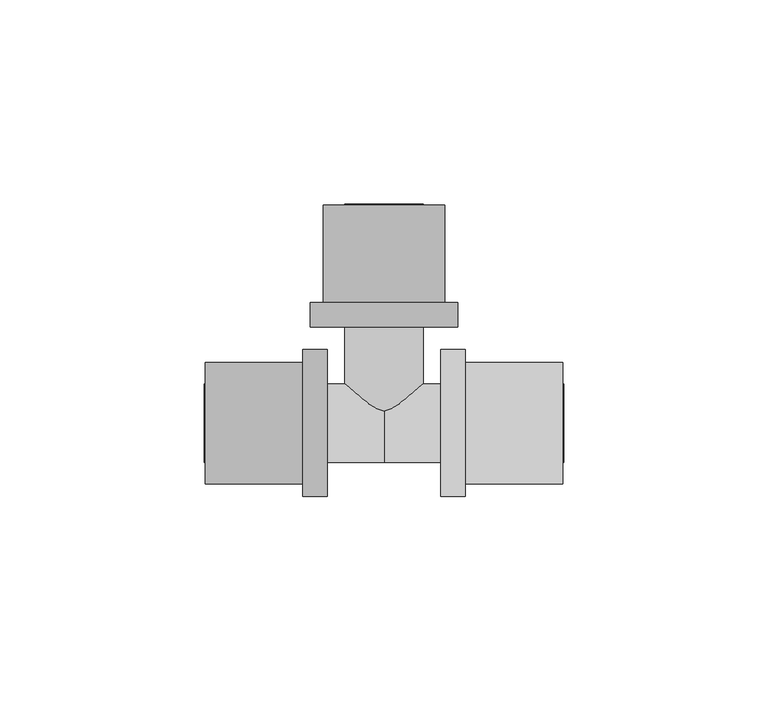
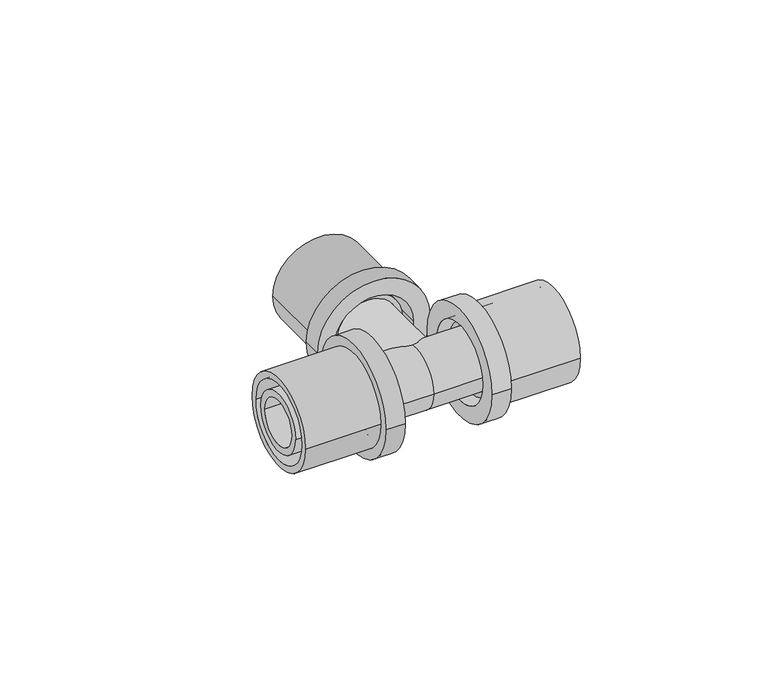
"""IFC4 building model written with IfcOpenShell, lengths in millimetres: pipe fitting geometry, FASTLOC_T-piece_EX+ : FSL T-Piece EX+ AT."""

from ifc_helpers import new_model, si_unit, frame, origin, place, context, project, spatial, polyline, circle_curve, source, transform, mapped, element, save
from ifc_brep_helpers import plane_surface, cylinder_surface, revolved_surface, advanced_brep


def pipe_fitting_e85672de(model_context):
    return source(origin(), model_context, "Body", "AdvancedBrep", [
        advanced_brep(
        [(19.9, 18.0, 0.0), (19.9, -18.0, 0.0), (13.9, -18.0, 0.0), (13.9, 18.0, 0.0), (43.7, 14.85, 0.0), (43.7, -14.85, 0.0), (19.9, -14.85, 0.0), (19.9, 14.85, 0.0), (13.9, 12.65, 0.0), (13.9, -12.65, 0.0), (43.7, -12.65, 0.0), (43.7, 12.65, 0.0)],
        [
            (0, 1, circle_curve(frame((19.9, 0.0, 0.0), z_axis=(-1.0, 0.0, 0.0), x_axis=(0.0, -1.0, 0.0)), 18.0)),
            (1, 2),
            (2, 3, circle_curve(frame((13.9, 0.0, 0.0), z_axis=(1.0, 0.0, 0.0), x_axis=(0.0, -1.0, 0.0)), 18.0)),
            (3, 0),
            (4, 5, circle_curve(frame((43.7, 0.0, 0.0), z_axis=(-1.0, 0.0, 0.0), x_axis=(0.0, -1.0, 0.0)), 14.85)),
            (5, 6),
            (6, 7, circle_curve(frame((19.9, 0.0, 0.0), z_axis=(1.0, 0.0, 0.0), x_axis=(0.0, -1.0, 0.0)), 14.85)),
            (7, 4),
            (8, 9, circle_curve(frame((13.9, 0.0, 0.0), z_axis=(-1.0, 0.0, 0.0), x_axis=(0.0, -1.0, 0.0)), 12.65)),
            (9, 10),
            (10, 11, circle_curve(frame((43.7, 0.0, 0.0), z_axis=(1.0, 0.0, 0.0), x_axis=(0.0, -1.0, 0.0)), 12.65)),
            (11, 8),
            (1, 0, circle_curve(frame((19.9, 0.0, 0.0), z_axis=(-1.0, 0.0, 0.0), x_axis=(0.0, 1.0, 0.0)), 18.0)),
            (3, 2, circle_curve(frame((13.9, 0.0, 0.0), z_axis=(1.0, 0.0, 0.0), x_axis=(0.0, 1.0, 0.0)), 18.0)),
            (6, 7, circle_curve(frame((19.9, 0.0, 0.0), z_axis=(-1.0, 0.0, 0.0), x_axis=(0.0, 1.0, 0.0)), 14.85)),
            (5, 4, circle_curve(frame((43.7, 0.0, 0.0), z_axis=(-1.0, 0.0, 0.0), x_axis=(0.0, 1.0, 0.0)), 14.85)),
            (10, 11, circle_curve(frame((43.7, 0.0, 0.0), z_axis=(-1.0, 0.0, 0.0), x_axis=(0.0, 1.0, 0.0)), 12.65)),
            (9, 8, circle_curve(frame((13.9, 0.0, 0.0), z_axis=(-1.0, 0.0, 0.0), x_axis=(0.0, 1.0, 0.0)), 12.65)),
        ],
        [
            cylinder_surface(frame((13.9, 0.0, 0.0), z_axis=(1.0, 0.0, 0.0), x_axis=(0.0, -1.0, 0.0)), 18.0),
            cylinder_surface(frame((13.9, 0.0, 0.0), z_axis=(1.0, 0.0, 0.0), x_axis=(0.0, -1.0, 0.0)), 14.85),
            revolved_surface(polyline([(43.7, -12.65, 0.0), (13.9, -12.65, 0.0)]), (13.9, 0.0, 0.0), (1.0, 0.0, 0.0)),
            cylinder_surface(frame((13.9, 0.0, 0.0), z_axis=(1.0, 0.0, 0.0), x_axis=(0.0, 1.0, 0.0)), 18.0),
            plane_surface(frame((19.9, 0.0, 0.0), z_axis=(1.0, 0.0, 0.0), x_axis=(0.0, 1.0, 0.0))),
            cylinder_surface(frame((13.9, 0.0, 0.0), z_axis=(1.0, 0.0, 0.0), x_axis=(0.0, 1.0, 0.0)), 14.85),
            plane_surface(frame((43.7, 0.0, 0.0), z_axis=(1.0, 0.0, 0.0), x_axis=(0.0, 1.0, 0.0))),
            revolved_surface(polyline([(43.7, 12.65, 0.0), (13.9, 12.65, 0.0)]), (13.9, 0.0, 0.0), (1.0, 0.0, 0.0)),
            plane_surface(frame((13.9, 0.0, 0.0), z_axis=(-1.0, 0.0, 0.0), x_axis=(0.0, 1.0, 0.0))),
        ],
        [
            (0, [[1, 2, 3, 4]]),
            (1, [[5, 6, 7, 8]]),
            (2, [[9, 10, 11, 12]]),
            (3, [[13, -4, 14, -2]]),
            (4, [[-13, -1], [15, -7]]),
            (5, [[16, -8, -15, -6]]),
            (6, [[-16, -5], [17, -11]]),
            (7, [[18, -12, -17, -10]]),
            (8, [[-14, -3], [-18, -9]]),
        ],
    ),
        advanced_brep(
        [(-19.9, -18.0, 0.0), (-19.9, 18.0, 0.0), (-13.9, 18.0, 0.0), (-13.9, -18.0, 0.0), (-43.7, -14.85, 0.0), (-43.7, 14.85, 0.0), (-19.9, 14.85, 0.0), (-19.9, -14.85, 0.0), (-13.9, -12.65, 0.0), (-13.9, 12.65, 0.0), (-43.7, 12.65, 0.0), (-43.7, -12.65, 0.0)],
        [
            (0, 1, circle_curve(frame((-19.9, 0.0, 0.0), z_axis=(1.0, 0.0, 0.0), x_axis=(0.0, 1.0, 0.0)), 18.0)),
            (1, 2),
            (2, 3, circle_curve(frame((-13.9, 0.0, 0.0), z_axis=(-1.0, 0.0, 0.0), x_axis=(0.0, 1.0, 0.0)), 18.0)),
            (3, 0),
            (4, 5, circle_curve(frame((-43.7, 0.0, 0.0), z_axis=(1.0, 0.0, 0.0), x_axis=(0.0, 1.0, 0.0)), 14.85)),
            (5, 6),
            (6, 7, circle_curve(frame((-19.9, 0.0, 0.0), z_axis=(-1.0, 0.0, 0.0), x_axis=(0.0, 1.0, 0.0)), 14.85)),
            (7, 4),
            (8, 9, circle_curve(frame((-13.9, 0.0, 0.0), z_axis=(1.0, 0.0, 0.0), x_axis=(0.0, 1.0, 0.0)), 12.65)),
            (9, 10),
            (10, 11, circle_curve(frame((-43.7, 0.0, 0.0), z_axis=(-1.0, 0.0, 0.0), x_axis=(0.0, 1.0, 0.0)), 12.65)),
            (11, 8),
            (1, 0, circle_curve(frame((-19.9, 0.0, 0.0), z_axis=(1.0, 0.0, 0.0), x_axis=(0.0, -1.0, 0.0)), 18.0)),
            (3, 2, circle_curve(frame((-13.9, 0.0, 0.0), z_axis=(-1.0, 0.0, 0.0), x_axis=(0.0, -1.0, 0.0)), 18.0)),
            (6, 7, circle_curve(frame((-19.9, 0.0, 0.0), z_axis=(1.0, 0.0, 0.0), x_axis=(0.0, -1.0, 0.0)), 14.85)),
            (5, 4, circle_curve(frame((-43.7, 0.0, 0.0), z_axis=(1.0, 0.0, 0.0), x_axis=(0.0, -1.0, 0.0)), 14.85)),
            (10, 11, circle_curve(frame((-43.7, 0.0, 0.0), z_axis=(1.0, 0.0, 0.0), x_axis=(0.0, -1.0, 0.0)), 12.65)),
            (9, 8, circle_curve(frame((-13.9, 0.0, 0.0), z_axis=(1.0, 0.0, 0.0), x_axis=(0.0, -1.0, 0.0)), 12.65)),
        ],
        [
            cylinder_surface(frame((-13.9, 0.0, 0.0), z_axis=(-1.0, 0.0, 0.0), x_axis=(0.0, 1.0, 0.0)), 18.0),
            cylinder_surface(frame((-13.9, 0.0, 0.0), z_axis=(-1.0, 0.0, 0.0), x_axis=(0.0, 1.0, 0.0)), 14.85),
            revolved_surface(polyline([(-43.7, 12.65, 0.0), (-13.9, 12.65, 0.0)]), (-13.9, 0.0, 0.0), (-1.0, 0.0, 0.0)),
            cylinder_surface(frame((-13.9, 0.0, 0.0), z_axis=(-1.0, 0.0, 0.0), x_axis=(0.0, -1.0, 0.0)), 18.0),
            plane_surface(frame((-19.9, 0.0, 0.0), z_axis=(-1.0, 0.0, 0.0), x_axis=(0.0, -1.0, 0.0))),
            cylinder_surface(frame((-13.9, 0.0, 0.0), z_axis=(-1.0, 0.0, 0.0), x_axis=(0.0, -1.0, 0.0)), 14.85),
            plane_surface(frame((-43.7, 0.0, 0.0), z_axis=(-1.0, 0.0, 0.0), x_axis=(0.0, -1.0, 0.0))),
            revolved_surface(polyline([(-43.7, -12.65, 0.0), (-13.9, -12.65, 0.0)]), (-13.9, 0.0, 0.0), (-1.0, 0.0, 0.0)),
            plane_surface(frame((-13.9, 0.0, 0.0), z_axis=(1.0, 0.0, 0.0), x_axis=(0.0, -1.0, 0.0))),
        ],
        [
            (0, [[1, 2, 3, 4]]),
            (1, [[5, 6, 7, 8]]),
            (2, [[9, 10, 11, 12]]),
            (3, [[13, -4, 14, -2]]),
            (4, [[-13, -1], [15, -7]]),
            (5, [[16, -8, -15, -6]]),
            (6, [[-16, -5], [17, -11]]),
            (7, [[18, -12, -17, -10]]),
            (8, [[-14, -3], [-18, -9]]),
        ],
    ),
        advanced_brep(
        [(-18.0, 29.5, 0.0), (18.0, 29.5, 0.0), (18.0, 23.5, 0.0), (-18.0, 23.5, 0.0), (-14.85, 53.3, 0.0), (14.85, 53.3, 0.0), (14.85, 29.5, 0.0), (-14.85, 29.5, 0.0), (-12.65, 23.5, 0.0), (12.65, 23.5, 0.0), (12.65, 53.3, 0.0), (-12.65, 53.3, 0.0)],
        [
            (0, 1, circle_curve(frame((0.0, 29.5, 0.0), z_axis=(0.0, -1.0, 0.0), x_axis=(1.0, 0.0, 0.0)), 18.0)),
            (1, 2),
            (2, 3, circle_curve(frame((0.0, 23.5, 0.0), z_axis=(0.0, 1.0, 0.0), x_axis=(1.0, 0.0, 0.0)), 18.0)),
            (3, 0),
            (4, 5, circle_curve(frame((0.0, 53.3, 0.0), z_axis=(0.0, -1.0, 0.0), x_axis=(1.0, 0.0, 0.0)), 14.85)),
            (5, 6),
            (6, 7, circle_curve(frame((0.0, 29.5, 0.0), z_axis=(0.0, 1.0, 0.0), x_axis=(1.0, 0.0, 0.0)), 14.85)),
            (7, 4),
            (8, 9, circle_curve(frame((0.0, 23.5, 0.0), z_axis=(0.0, -1.0, 0.0), x_axis=(1.0, 0.0, 0.0)), 12.65)),
            (9, 10),
            (10, 11, circle_curve(frame((0.0, 53.3, 0.0), z_axis=(0.0, 1.0, 0.0), x_axis=(1.0, 0.0, 0.0)), 12.65)),
            (11, 8),
            (1, 0, circle_curve(frame((0.0, 29.5, 0.0), z_axis=(0.0, -1.0, 0.0), x_axis=(-1.0, 0.0, 0.0)), 18.0)),
            (3, 2, circle_curve(frame((0.0, 23.5, 0.0), z_axis=(0.0, 1.0, 0.0), x_axis=(-1.0, 0.0, 0.0)), 18.0)),
            (6, 7, circle_curve(frame((0.0, 29.5, 0.0), z_axis=(0.0, -1.0, 0.0), x_axis=(-1.0, 0.0, 0.0)), 14.85)),
            (5, 4, circle_curve(frame((0.0, 53.3, 0.0), z_axis=(0.0, -1.0, 0.0), x_axis=(-1.0, 0.0, 0.0)), 14.85)),
            (10, 11, circle_curve(frame((0.0, 53.3, 0.0), z_axis=(0.0, -1.0, 0.0), x_axis=(-1.0, 0.0, 0.0)), 12.65)),
            (9, 8, circle_curve(frame((0.0, 23.5, 0.0), z_axis=(0.0, -1.0, 0.0), x_axis=(-1.0, 0.0, 0.0)), 12.65)),
        ],
        [
            cylinder_surface(frame((0.0, 23.5, 0.0), z_axis=(0.0, 1.0, 0.0), x_axis=(1.0, 0.0, 0.0)), 18.0),
            cylinder_surface(frame((0.0, 23.5, 0.0), z_axis=(0.0, 1.0, 0.0), x_axis=(1.0, 0.0, 0.0)), 14.85),
            revolved_surface(polyline([(12.65, 53.3, 0.0), (12.65, 23.5, 0.0)]), (0.0, 23.5, 0.0), (0.0, 1.0, 0.0)),
            cylinder_surface(frame((0.0, 23.5, 0.0), z_axis=(0.0, 1.0, 0.0), x_axis=(-1.0, 0.0, 0.0)), 18.0),
            plane_surface(frame((0.0, 29.5, 0.0), z_axis=(0.0, 1.0, 0.0), x_axis=(-1.0, 0.0, 0.0))),
            cylinder_surface(frame((0.0, 23.5, 0.0), z_axis=(0.0, 1.0, 0.0), x_axis=(-1.0, 0.0, 0.0)), 14.85),
            plane_surface(frame((0.0, 53.3, 0.0), z_axis=(0.0, 1.0, 0.0), x_axis=(-1.0, 0.0, 0.0))),
            revolved_surface(polyline([(-12.65, 53.3, 0.0), (-12.65, 23.5, 0.0)]), (0.0, 23.5, 0.0), (0.0, 1.0, 0.0)),
            plane_surface(frame((0.0, 23.5, 0.0), z_axis=(0.0, -1.0, 0.0), x_axis=(-1.0, 0.0, 0.0))),
        ],
        [
            (0, [[1, 2, 3, 4]]),
            (1, [[5, 6, 7, 8]]),
            (2, [[9, 10, 11, 12]]),
            (3, [[13, -4, 14, -2]]),
            (4, [[-13, -1], [15, -7]]),
            (5, [[16, -8, -15, -6]]),
            (6, [[-16, -5], [17, -11]]),
            (7, [[18, -12, -17, -10]]),
            (8, [[-14, -3], [-18, -9]]),
        ],
    ),
        advanced_brep(
        [(0.0, 9.6, 0.0), (0.0, -9.6, 0.0), (-17.1, -9.6, 0.0), (-17.1, 9.6, 0.0), (17.1, 9.6, 0.0), (17.1, -9.6, 0.0), (19.9, 11.1, 0.0), (19.9, -11.1, 0.0), (17.1, -11.1, 0.0), (17.1, 11.1, 0.0), (43.9, 9.6, 0.0), (43.9, -9.6, 0.0), (19.9, -9.6, 0.0), (19.9, 9.6, 0.0), (-43.9, 7.35, 0.0), (-43.9, -7.35, 0.0), (43.9, -7.35, 0.0), (43.9, 7.35, 0.0), (-19.9, 9.6, 0.0), (-19.9, -9.6, 0.0), (-43.9, -9.6, 0.0), (-43.9, 9.6, 0.0), (-17.1, 11.1, 0.0), (-17.1, -11.1, 0.0), (-19.9, -11.1, 0.0), (-19.9, 11.1, 0.0)],
        [
            (0, 1, circle_curve(frame((0.0, 0.0, 0.0), z_axis=(-1.0, 0.0, 0.0), x_axis=(0.0, -1.0, 0.0)), 9.6)),
            (1, 2),
            (2, 3, circle_curve(frame((-17.1, 0.0, 0.0), z_axis=(1.0, 0.0, 0.0), x_axis=(0.0, -1.0, 0.0)), 9.6)),
            (3, 0),
            (4, 5, circle_curve(frame((17.1, 0.0, 0.0), z_axis=(-1.0, 0.0, 0.0), x_axis=(0.0, -1.0, 0.0)), 9.6)),
            (5, 1),
            (0, 4),
            (6, 7, circle_curve(frame((19.9, 0.0, 0.0), z_axis=(-1.0, 0.0, 0.0), x_axis=(0.0, -1.0, 0.0)), 11.1)),
            (7, 8),
            (8, 9, circle_curve(frame((17.1, 0.0, 0.0), z_axis=(1.0, 0.0, 0.0), x_axis=(0.0, -1.0, 0.0)), 11.1)),
            (9, 6),
            (10, 11, circle_curve(frame((43.9, 0.0, 0.0), z_axis=(-1.0, 0.0, 0.0), x_axis=(0.0, -1.0, 0.0)), 9.6)),
            (11, 12),
            (12, 13, circle_curve(frame((19.9, 0.0, 0.0), z_axis=(1.0, 0.0, 0.0), x_axis=(0.0, -1.0, 0.0)), 9.6)),
            (13, 10),
            (14, 15, circle_curve(frame((-43.9, 0.0, 0.0), z_axis=(-1.0, 0.0, 0.0), x_axis=(0.0, -1.0, 0.0)), 7.35)),
            (15, 16),
            (16, 17, circle_curve(frame((43.9, 0.0, 0.0), z_axis=(1.0, 0.0, 0.0), x_axis=(0.0, -1.0, 0.0)), 7.35)),
            (17, 14),
            (18, 19, circle_curve(frame((-19.9, 0.0, 0.0), z_axis=(-1.0, 0.0, 0.0), x_axis=(0.0, -1.0, 0.0)), 9.6)),
            (19, 20),
            (20, 21, circle_curve(frame((-43.9, 0.0, 0.0), z_axis=(1.0, 0.0, 0.0), x_axis=(0.0, -1.0, 0.0)), 9.6)),
            (21, 18),
            (22, 23, circle_curve(frame((-17.1, 0.0, 0.0), z_axis=(-1.0, 0.0, 0.0), x_axis=(0.0, -1.0, 0.0)), 11.1)),
            (23, 24),
            (24, 25, circle_curve(frame((-19.9, 0.0, 0.0), z_axis=(1.0, 0.0, 0.0), x_axis=(0.0, -1.0, 0.0)), 11.1)),
            (25, 22),
            (22, 23, circle_curve(frame((-17.1, 0.0, 0.0), z_axis=(1.0, 0.0, 0.0), x_axis=(0.0, 1.0, 0.0)), 11.1)),
            (2, 3, circle_curve(frame((-17.1, 0.0, 0.0), z_axis=(-1.0, 0.0, 0.0), x_axis=(0.0, 1.0, 0.0)), 9.6)),
            (1, 0, circle_curve(frame((0.0, 0.0, 0.0), z_axis=(-1.0, 0.0, 0.0), x_axis=(0.0, 1.0, 0.0)), 9.6)),
            (5, 4, circle_curve(frame((17.1, 0.0, 0.0), z_axis=(-1.0, 0.0, 0.0), x_axis=(0.0, 1.0, 0.0)), 9.6)),
            (8, 9, circle_curve(frame((17.1, 0.0, 0.0), z_axis=(-1.0, 0.0, 0.0), x_axis=(0.0, 1.0, 0.0)), 11.1)),
            (7, 6, circle_curve(frame((19.9, 0.0, 0.0), z_axis=(-1.0, 0.0, 0.0), x_axis=(0.0, 1.0, 0.0)), 11.1)),
            (12, 13, circle_curve(frame((19.9, 0.0, 0.0), z_axis=(-1.0, 0.0, 0.0), x_axis=(0.0, 1.0, 0.0)), 9.6)),
            (11, 10, circle_curve(frame((43.9, 0.0, 0.0), z_axis=(-1.0, 0.0, 0.0), x_axis=(0.0, 1.0, 0.0)), 9.6)),
            (16, 17, circle_curve(frame((43.9, 0.0, 0.0), z_axis=(-1.0, 0.0, 0.0), x_axis=(0.0, 1.0, 0.0)), 7.35)),
            (15, 14, circle_curve(frame((-43.9, 0.0, 0.0), z_axis=(-1.0, 0.0, 0.0), x_axis=(0.0, 1.0, 0.0)), 7.35)),
            (20, 21, circle_curve(frame((-43.9, 0.0, 0.0), z_axis=(-1.0, 0.0, 0.0), x_axis=(0.0, 1.0, 0.0)), 9.6)),
            (19, 18, circle_curve(frame((-19.9, 0.0, 0.0), z_axis=(-1.0, 0.0, 0.0), x_axis=(0.0, 1.0, 0.0)), 9.6)),
            (24, 25, circle_curve(frame((-19.9, 0.0, 0.0), z_axis=(-1.0, 0.0, 0.0), x_axis=(0.0, 1.0, 0.0)), 11.1)),
        ],
        [
            cylinder_surface(frame((0.0, 0.0, 0.0), z_axis=(1.0, 0.0, 0.0), x_axis=(0.0, -1.0, 0.0)), 9.6),
            cylinder_surface(frame((0.0, 0.0, 0.0), z_axis=(1.0, 0.0, 0.0), x_axis=(0.0, -1.0, 0.0)), 11.1),
            revolved_surface(polyline([(43.9, -7.35, 0.0), (-43.9, -7.35, 0.0)]), (0.0, 0.0, 0.0), (1.0, 0.0, 0.0)),
            plane_surface(frame((-17.1, 0.0, 0.0), z_axis=(1.0, 0.0, 0.0), x_axis=(0.0, 1.0, 0.0))),
            cylinder_surface(frame((0.0, 0.0, 0.0), z_axis=(1.0, 0.0, 0.0), x_axis=(0.0, 1.0, 0.0)), 9.6),
            plane_surface(frame((17.1, 0.0, 0.0), z_axis=(-1.0, 0.0, 0.0), x_axis=(0.0, 1.0, 0.0))),
            cylinder_surface(frame((0.0, 0.0, 0.0), z_axis=(1.0, 0.0, 0.0), x_axis=(0.0, 1.0, 0.0)), 11.1),
            plane_surface(frame((19.9, 0.0, 0.0), z_axis=(1.0, 0.0, 0.0), x_axis=(0.0, 1.0, 0.0))),
            plane_surface(frame((43.9, 0.0, 0.0), z_axis=(1.0, 0.0, 0.0), x_axis=(0.0, 1.0, 0.0))),
            revolved_surface(polyline([(43.9, 7.35, 0.0), (-43.9, 7.35, 0.0)]), (0.0, 0.0, 0.0), (1.0, 0.0, 0.0)),
            plane_surface(frame((-43.9, 0.0, 0.0), z_axis=(-1.0, 0.0, 0.0), x_axis=(0.0, 1.0, 0.0))),
            plane_surface(frame((-19.9, 0.0, 0.0), z_axis=(-1.0, 0.0, 0.0), x_axis=(0.0, 1.0, 0.0))),
        ],
        [
            (0, [[1, 2, 3, 4]]),
            (0, [[5, 6, -1, 7]]),
            (1, [[8, 9, 10, 11]]),
            (0, [[12, 13, 14, 15]]),
            (2, [[16, 17, 18, 19]]),
            (0, [[20, 21, 22, 23]]),
            (1, [[24, 25, 26, 27]]),
            (3, [[28, -24], [29, -3]]),
            (4, [[30, -4, -29, -2]]),
            (4, [[31, -7, -30, -6]]),
            (5, [[32, -10], [-31, -5]]),
            (6, [[33, -11, -32, -9]]),
            (7, [[-33, -8], [34, -14]]),
            (4, [[35, -15, -34, -13]]),
            (8, [[-35, -12], [36, -18]]),
            (9, [[37, -19, -36, -17]]),
            (10, [[38, -22], [-37, -16]]),
            (4, [[39, -23, -38, -21]]),
            (11, [[40, -26], [-39, -20]]),
            (6, [[-28, -27, -40, -25]]),
        ],
    ),
        advanced_brep(
        [(7.35, 53.5, 0.0), (-7.35, 53.5, 0.0), (-7.35, 0.0, 0.0), (7.35, 0.0, 0.0), (9.6, 0.0, 0.0), (-9.6, 0.0, 0.0), (-9.6, 26.7, 0.0), (9.6, 26.7, 0.0), (11.1, 26.7, 0.0), (-11.1, 26.7, 0.0), (-11.1, 29.5, 0.0), (11.1, 29.5, 0.0), (9.6, 29.5, 0.0), (-9.6, 29.5, 0.0), (-9.6, 53.5, 0.0), (9.6, 53.5, 0.0)],
        [
            (0, 1, circle_curve(frame((0.0, 53.5, 0.0), z_axis=(0.0, 1.0, 0.0), x_axis=(-1.0, 0.0, 0.0)), 7.35)),
            (1, 2),
            (2, 3, circle_curve(frame((0.0, 0.0, 0.0), z_axis=(0.0, -1.0, 0.0), x_axis=(-1.0, 0.0, 0.0)), 7.35)),
            (3, 0),
            (4, 5, circle_curve(frame((0.0, 0.0, 0.0), z_axis=(0.0, 1.0, 0.0), x_axis=(-1.0, 0.0, 0.0)), 9.6)),
            (5, 6),
            (6, 7, circle_curve(frame((0.0, 26.7, 0.0), z_axis=(0.0, -1.0, 0.0), x_axis=(-1.0, 0.0, 0.0)), 9.6)),
            (7, 4),
            (8, 9, circle_curve(frame((0.0, 26.7, 0.0), z_axis=(0.0, 1.0, 0.0), x_axis=(-1.0, 0.0, 0.0)), 11.1)),
            (9, 10),
            (10, 11, circle_curve(frame((0.0, 29.5, 0.0), z_axis=(0.0, -1.0, 0.0), x_axis=(-1.0, 0.0, 0.0)), 11.1)),
            (11, 8),
            (12, 13, circle_curve(frame((0.0, 29.5, 0.0), z_axis=(0.0, 1.0, 0.0), x_axis=(-1.0, 0.0, 0.0)), 9.6)),
            (13, 14),
            (14, 15, circle_curve(frame((0.0, 53.5, 0.0), z_axis=(0.0, -1.0, 0.0), x_axis=(-1.0, 0.0, 0.0)), 9.6)),
            (15, 12),
            (1, 0, circle_curve(frame((0.0, 53.5, 0.0), z_axis=(0.0, 1.0, 0.0), x_axis=(1.0, 0.0, 0.0)), 7.35)),
            (3, 2, circle_curve(frame((0.0, 0.0, 0.0), z_axis=(0.0, -1.0, 0.0), x_axis=(1.0, 0.0, 0.0)), 7.35)),
            (4, 5, circle_curve(frame((0.0, 0.0, 0.0), z_axis=(0.0, -1.0, 0.0), x_axis=(1.0, 0.0, 0.0)), 9.6)),
            (7, 6, circle_curve(frame((0.0, 26.7, 0.0), z_axis=(0.0, -1.0, 0.0), x_axis=(1.0, 0.0, 0.0)), 9.6)),
            (8, 9, circle_curve(frame((0.0, 26.7, 0.0), z_axis=(0.0, -1.0, 0.0), x_axis=(1.0, 0.0, 0.0)), 11.1)),
            (11, 10, circle_curve(frame((0.0, 29.5, 0.0), z_axis=(0.0, -1.0, 0.0), x_axis=(1.0, 0.0, 0.0)), 11.1)),
            (12, 13, circle_curve(frame((0.0, 29.5, 0.0), z_axis=(0.0, -1.0, 0.0), x_axis=(1.0, 0.0, 0.0)), 9.6)),
            (15, 14, circle_curve(frame((0.0, 53.5, 0.0), z_axis=(0.0, -1.0, 0.0), x_axis=(1.0, 0.0, 0.0)), 9.6)),
        ],
        [
            revolved_surface(polyline([(-7.35, 0.0, 0.0), (-7.35, 53.5, 0.0)]), (0.0, 0.0, 0.0), (0.0, -1.0, 0.0)),
            cylinder_surface(frame((0.0, 0.0, 0.0), z_axis=(0.0, -1.0, 0.0), x_axis=(-1.0, 0.0, 0.0)), 9.6),
            cylinder_surface(frame((0.0, 0.0, 0.0), z_axis=(0.0, -1.0, 0.0), x_axis=(-1.0, 0.0, 0.0)), 11.1),
            revolved_surface(polyline([(7.35, 0.0, 0.0), (7.35, 53.5, 0.0)]), (0.0, 0.0, 0.0), (0.0, -1.0, 0.0)),
            plane_surface(frame((0.0, 0.0, 0.0), z_axis=(0.0, -1.0, 0.0), x_axis=(1.0, 0.0, 0.0))),
            cylinder_surface(frame((0.0, 0.0, 0.0), z_axis=(0.0, -1.0, 0.0), x_axis=(1.0, 0.0, 0.0)), 9.6),
            plane_surface(frame((0.0, 26.7, 0.0), z_axis=(0.0, -1.0, 0.0), x_axis=(1.0, 0.0, 0.0))),
            cylinder_surface(frame((0.0, 0.0, 0.0), z_axis=(0.0, -1.0, 0.0), x_axis=(1.0, 0.0, 0.0)), 11.1),
            plane_surface(frame((0.0, 29.5, 0.0), z_axis=(0.0, 1.0, 0.0), x_axis=(1.0, 0.0, 0.0))),
            plane_surface(frame((0.0, 53.5, 0.0), z_axis=(0.0, 1.0, 0.0), x_axis=(1.0, 0.0, 0.0))),
        ],
        [
            (0, [[1, 2, 3, 4]]),
            (1, [[5, 6, 7, 8]]),
            (2, [[9, 10, 11, 12]]),
            (1, [[13, 14, 15, 16]]),
            (3, [[17, -4, 18, -2]]),
            (4, [[19, -5], [-18, -3]]),
            (5, [[-19, -8, 20, -6]]),
            (6, [[21, -9], [-20, -7]]),
            (7, [[-21, -12, 22, -10]]),
            (8, [[-22, -11], [23, -13]]),
            (5, [[-23, -16, 24, -14]]),
            (9, [[-24, -15], [-17, -1]]),
        ],
    ),
    ])


if __name__ == "__main__":
    model = new_model("IFC4")
    model_context = context("Model", 3, world=origin())
    ifc_project = project(units=[si_unit("LENGTHUNIT", "METRE", prefix="MILLI")], contexts=[model_context])
    site = spatial("IfcSite", under=ifc_project)
    building = spatial("IfcBuilding", under=site)
    placement = place(None, origin())
    pipe_fitting_shape = pipe_fitting_e85672de(model_context)
    element("IfcPipeFitting", 1, ObjectType="FASTLOC_T-piece_EX+ : FSL T-Piece EX+ AT", at=placement, inside=building, context=model_context, shape_type="MappedRepresentation", body=[
        mapped(pipe_fitting_shape, transform((0.0, 0.0, 0.0), x_axis=(1.0, 0.0, 0.0), y_axis=(0.0, 1.0, 0.0), z_axis=(0.0, 0.0, 1.0))),
    ])
    save(model, "model.ifc")
